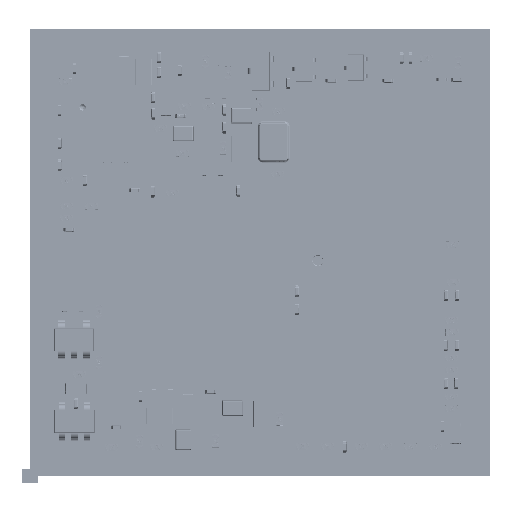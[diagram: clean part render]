
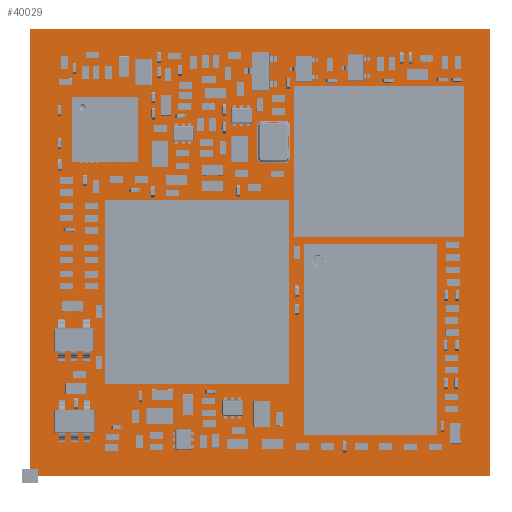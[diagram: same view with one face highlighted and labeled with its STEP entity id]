
A CAD part, top view. The second image highlights one B-rep face of the part: STEP entity #40029.
In plain terms, the highlighted planar face has unit normal (0, 0, 1).
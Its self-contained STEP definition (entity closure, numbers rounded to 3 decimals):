
#30667=FACE_OUTER_BOUND($,#33101,.F.);
#33101=EDGE_LOOP($,(#42537,#42538,#42539,#42540));
#35740=AXIS2_PLACEMENT_3D($,#73594,#65129,$);
#39509=PLANE($,#35740);
#40029=ADVANCED_FACE($,(#30667),#39509,.T.);
#42537=ORIENTED_EDGE($,*,*,#52086,.T.);
#42538=ORIENTED_EDGE($,*,*,#52087,.T.);
#42539=ORIENTED_EDGE($,*,*,#52088,.T.);
#42540=ORIENTED_EDGE($,*,*,#52089,.T.);
#52086=EDGE_CURVE($,#59580,#59581,#58214,.T.);
#52087=EDGE_CURVE($,#59581,#59582,#58215,.T.);
#52088=EDGE_CURVE($,#59582,#59583,#58216,.T.);
#52089=EDGE_CURVE($,#59583,#59580,#58217,.T.);
#56866=VECTOR($,#65170,34.);
#56867=VECTOR($,#65171,35.);
#56868=VECTOR($,#65172,34.);
#56869=VECTOR($,#65173,35.);
#58214=LINE($,#73593,#56866);
#58215=LINE($,#73594,#56867);
#58216=LINE($,#73595,#56868);
#58217=LINE($,#73596,#56869);
#59580=VERTEX_POINT($,#73593);
#59581=VERTEX_POINT($,#73594);
#59582=VERTEX_POINT($,#73595);
#59583=VERTEX_POINT($,#73596);
#65129=DIRECTION($,(0.,0.,1.));
#65170=DIRECTION($,(0.,1.,0.));
#65171=DIRECTION($,(1.,0.,0.));
#65172=DIRECTION($,(0.,-1.,0.));
#65173=DIRECTION($,(-1.,0.,0.));
#73593=CARTESIAN_POINT('',(0.,-34.,0.001));
#73594=CARTESIAN_POINT('',(0.,0.,0.001));
#73595=CARTESIAN_POINT('',(35.,0.,0.001));
#73596=CARTESIAN_POINT('',(35.,-34.,0.001));
